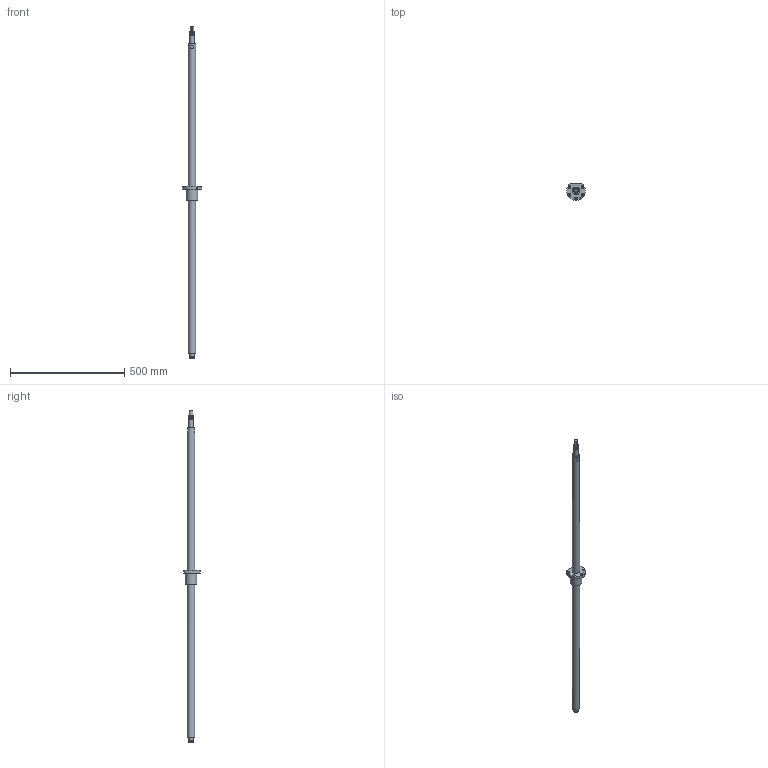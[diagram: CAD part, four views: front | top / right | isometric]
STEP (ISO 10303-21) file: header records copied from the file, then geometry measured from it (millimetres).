
FILE_DESCRIPTION(/* description */ (''),/* implementation_level */ '2;1');
FILE_NAME(/* name */ 'BSG404_asm1.stp',/* time_stamp */ '2017-01-12T14:09:51+08:00',/* author */ (''),/* organization */ (''),/* preprocessor_version */ 'ST-DEVELOPER v15',/* originating_system */ 'SIEMENS PLM Software NX 8.5',/* authorisation */ '');
FILE_SCHEMA (('AUTOMOTIVE_DESIGN { 1 0 10303 214 3 1 1 1 }'));
Length unit declared in the file: millimetre
Products named in the file (3): 01; BSG404; BSG404_asm1
Assembly tree (2 placements, depth 2):
  BSG404_asm1
    BSG404
    01
Bounding box: 81.92 x 72.85 x 1450 mm (x, y, z)
Volume: 1217606.2 mm3; surface area: 171228.4 mm2
Topology: 2 solids, 2 shells, 61 faces, 131 edges, 88 vertices
Faces by surface type: cylinder 29, plane 28, bspline 2, cone 2
Full cylindrical faces by diameter (mm): 5 x1, 6 x1, 7 x5, 12 x5, 17 x1, 19 x1, 20 x8, 32 x2, 50 x1
Entity records: 2959 total; most frequent: CARTESIAN_POINT 1791, DIRECTION 234, ORIENTED_EDGE 174, AXIS2_PLACEMENT_3D 105, EDGE_LOOP 104, EDGE_CURVE 87, FACE_BOUND 85, VERTEX_POINT 71
